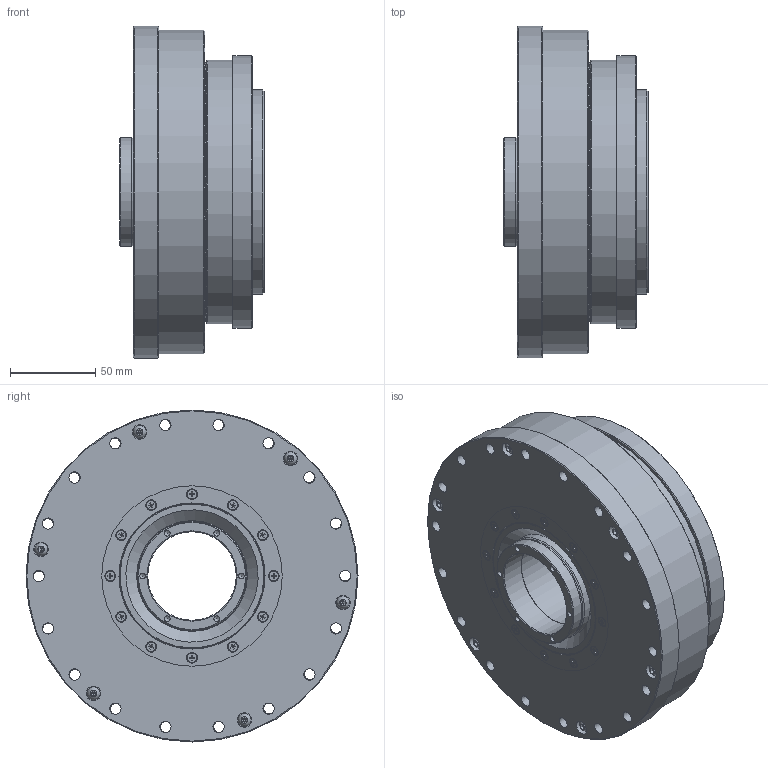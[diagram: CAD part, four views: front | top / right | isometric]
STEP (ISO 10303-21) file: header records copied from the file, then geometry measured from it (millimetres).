
FILE_DESCRIPTION (( 'STEP AP203' ), '1' );
FILE_NAME ('LHSG-45-XXX-C-III.STEP', '2024-11-19T04:32:25', ( '' ), ( '' ), 'SwSTEP 2.0', 'SolidWorks 2023', '' );
FILE_SCHEMA (( 'CONFIG_CONTROL_DESIGN' ));
Length unit declared in the file: millimetre
Products named in the file (1): LHSG-45-XXX-C-III
Bounding box: 85 x 195 x 195 mm (x, y, z)
Volume: 1268396.7 mm3; surface area: 571295 mm2
Topology: 73 solids, 73 shells, 1732 faces, 4486 edges, 2813 vertices
Faces by surface type: plane 727, cylinder 383, cone 278, torus 226, sphere 118
Full cylindrical faces by diameter (mm): 2.5 x12, 3 x12, 3.3 x18, 3.4 x12, 4 x12, 4.2 x4, 4.5 x18, 5 x8, 5.5 x20, 6.6 x54, 6.8 x12, 8.5 x20, 9 x24, 9.5 x4, 10 x4, 52 x2, 52.5 x1, 58.8 x1, 59 x2, 62 x3, 63.8 x1, 64 x1, 64.8 x2, 65 x7, 65.6 x1, 68 x2, 68.3 x1, 69 x1, 70 x1, 71.667 x2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
Entity records: 52439 total; most frequent: CARTESIAN_POINT 14751, DIRECTION 7780, ORIENTED_EDGE 6934, EDGE_CURVE 3467, AXIS2_PLACEMENT_3D 3388, EDGE_LOOP 2764, VERTEX_POINT 2479, FACE_OUTER_BOUND 2035
